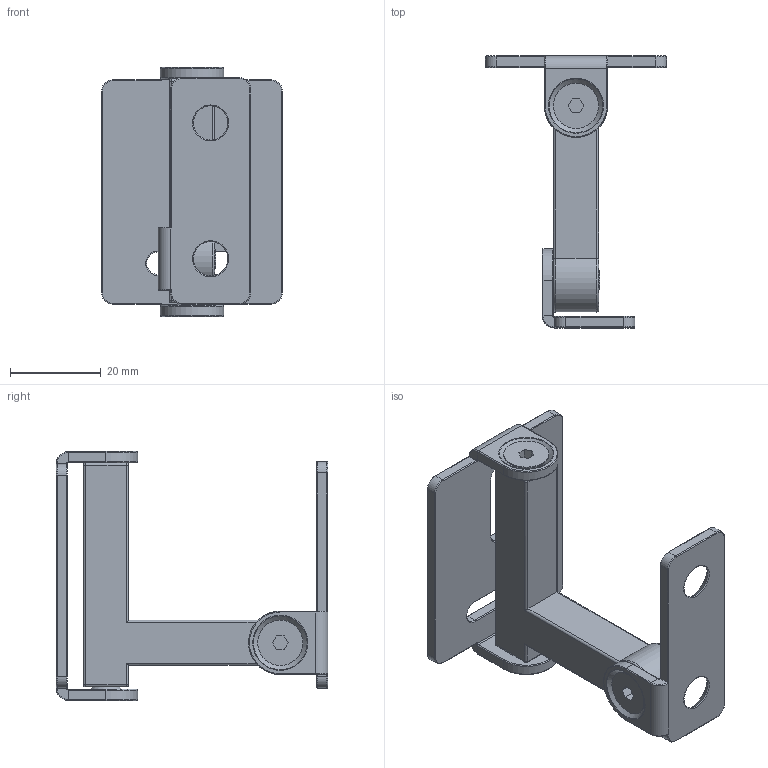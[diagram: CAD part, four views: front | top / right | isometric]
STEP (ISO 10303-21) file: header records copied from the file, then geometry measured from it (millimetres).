
FILE_DESCRIPTION(/* description */ (''),/* implementation_level */ '2;1');
FILE_NAME(/* name */ 'LB WH 20.stp',/* time_stamp */ '2024-10-17T13:22:51+02:00',/* author */ ('d.streicher'),/* organization */ (''),/* preprocessor_version */ 'ST-DEVELOPER v20',/* originating_system */ 'Autodesk Inventor 2025',/* authorisation */ '');
FILE_SCHEMA (('AUTOMOTIVE_DESIGN { 1 0 10303 214 3 1 1 }'));
Length unit declared in the file: millimetre
Products named in the file (5): LB WH 20; LB WH 1020W; LB WH 10 M; LB WH 1020 Wi; DIN 7991 - M5x12
Assembly tree (6 placements, depth 2):
  LB WH 20
    LB WH 1020W
    LB WH 10 M
    LB WH 1020 Wi
    DIN 7991 - M5x12  x3
Bounding box: 40 x 60 x 55 mm (x, y, z)
Volume: 16728.8 mm3; surface area: 12864.4 mm2
Topology: 6 solids, 6 shells, 280 faces, 633 edges, 368 vertices
Faces by surface type: cylinder 103, plane 87, torus 58, cone 16, bspline 8, sphere 8
Full cylindrical faces by diameter (mm): 5 x6, 10 x3
Entity records: 7514 total; most frequent: CARTESIAN_POINT 1511, DIRECTION 1359, ORIENTED_EDGE 1134, EDGE_CURVE 567, AXIS2_PLACEMENT_3D 550, VERTEX_POINT 326, CIRCLE 286, EDGE_LOOP 271
